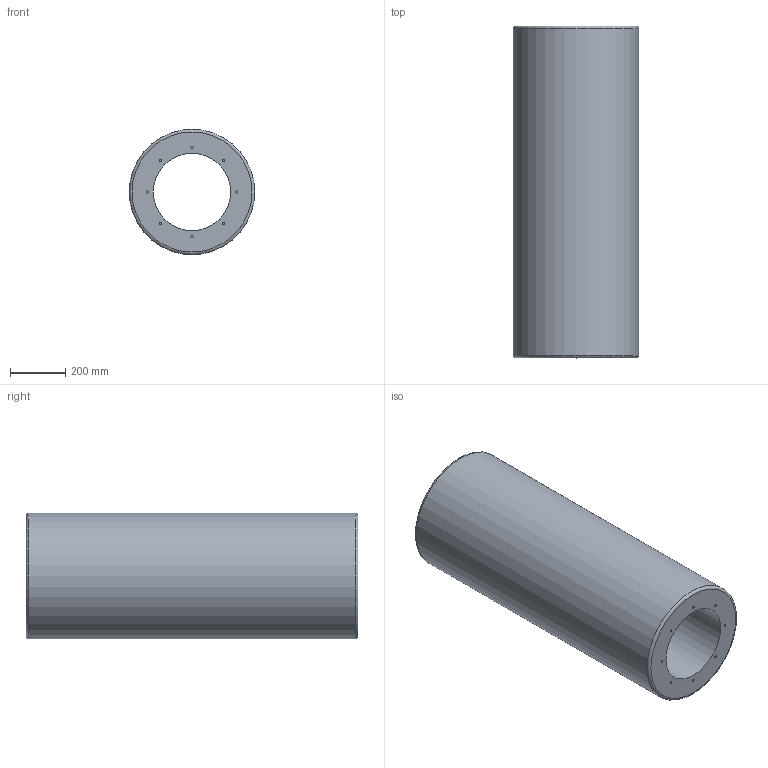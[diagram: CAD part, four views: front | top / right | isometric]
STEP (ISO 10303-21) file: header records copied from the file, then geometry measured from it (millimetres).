
FILE_DESCRIPTION(/* description */ (''),/* implementation_level */ '2;1');
FILE_NAME(/* name */ 'Z:\Output\RSD_280-1200-08742-002.stp',/* time_stamp */ '2017-09-20T12:03:57+02:00',/* author */ ('Engineering1'),/* organization */ (''),/* preprocessor_version */ 'ST-DEVELOPER v16.5',/* originating_system */ 'Autodesk Inventor 2017',/* authorisation */ '');
FILE_SCHEMA (('AUTOMOTIVE_DESIGN { 1 0 10303 214 3 1 1 }'));
Length unit declared in the file: millimetre
Products named in the file (1): RSD-1
Bounding box: 454 x 1200 x 454 mm (x, y, z)
Volume: 120300837.5 mm3; surface area: 2959419.6 mm2
Topology: 1 solids, 1 shells, 38 faces, 58 edges, 38 vertices
Faces by surface type: cylinder 18, plane 18, torus 2
Full cylindrical faces by diameter (mm): 8 x16, 280 x1, 454 x1
Entity records: 806 total; most frequent: DIRECTION 154, CARTESIAN_POINT 115, AXIS2_PLACEMENT_3D 77, EDGE_LOOP 76, ORIENTED_EDGE 76, FACE_BOUND 38, FACE_OUTER_BOUND 38, CIRCLE 38
